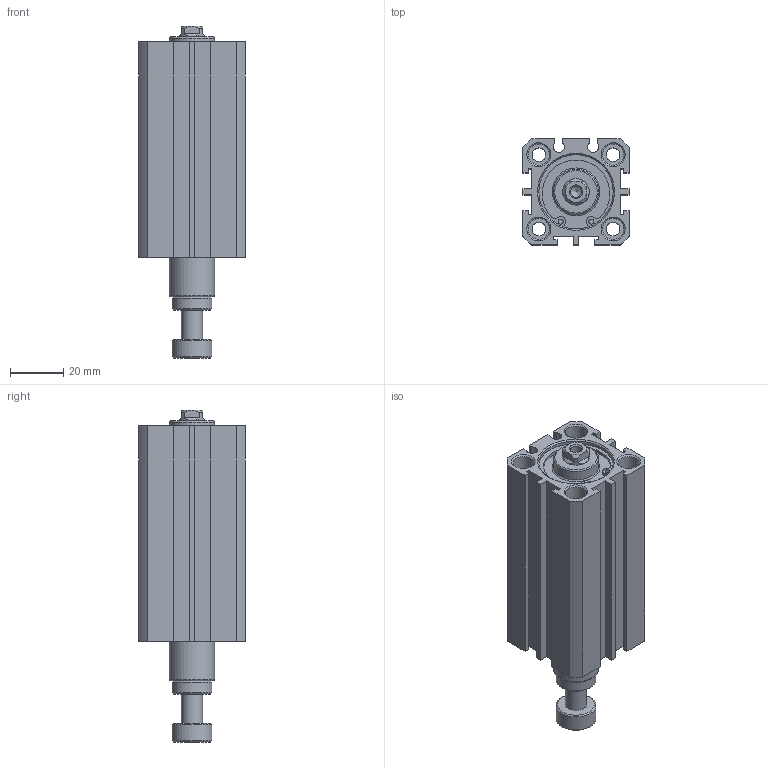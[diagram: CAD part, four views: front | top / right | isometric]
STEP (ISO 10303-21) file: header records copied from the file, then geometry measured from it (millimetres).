
FILE_DESCRIPTION((''),'2;1');
FILE_NAME('I:\3D電子目錄\氣缸\JDAR\JDAR-S\JDAR25-S\JDAR25x50-S.stp','2007-05-05T08:51:40',('662F206'),(''),'Autodesk Inventor 11','Autodesk Inventor 11','');
FILE_SCHEMA(('AUTOMOTIVE_DESIGN { 1 0 10303 214 1 1 1 1 }'));
Length unit declared in the file: millimetre
Products named in the file (3): JDAR25-S; JDAR25; R 形環 28
Assembly tree (3 placements, depth 2):
  JDAR25-S
    JDAR25
    R 形環 28  x2
Bounding box: 40 x 40 x 125.1 mm (x, y, z)
Volume: 111141.9 mm3; surface area: 31508.8 mm2
Topology: 3 solids, 3 shells, 165 faces, 384 edges, 249 vertices
Faces by surface type: plane 86, cylinder 48, cone 21, bspline 8, torus 2
Full cylindrical faces by diameter (mm): 1.5 x2, 1.9 x4, 5.1 x4, 8 x9, 10 x1, 15 x2, 17 x2, 28 x4, 29.4 x2
Entity records: 4249 total; most frequent: CARTESIAN_POINT 853, DIRECTION 706, ORIENTED_EDGE 588, EDGE_CURVE 294, AXIS2_PLACEMENT_3D 269, EDGE_LOOP 242, VERTEX_POINT 222, VECTOR 168
